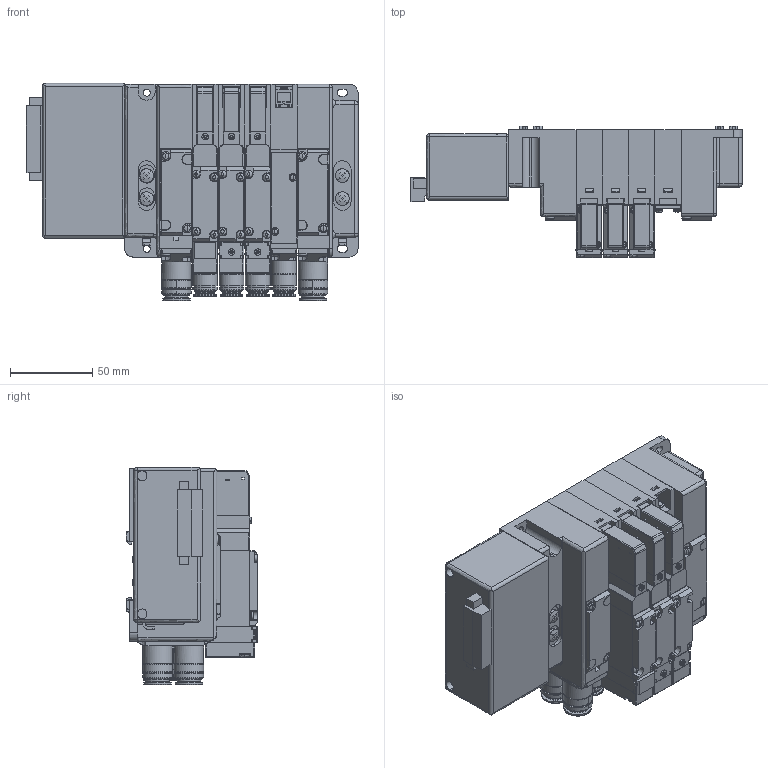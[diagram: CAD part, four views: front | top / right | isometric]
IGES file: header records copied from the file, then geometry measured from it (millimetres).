
Start section: ------------------------------------------------------------------------
Global section: file name: D:\ICADMX\tmp\trans3d_spg\CVICAD02.5220.F15M4XSJ-JR-B1-DN_16968.igs; native system: spGate; preprocessor: ver12.6.6; author: Unknown; organization: Unknown; date: 210712.184955; units: millimetre
Bounding box: 202 x 80.2 x 132.3 mm (x, y, z)
Volume: 1003557.7 mm3; surface area: 233339.7 mm2
Topology: 37 solids, 37 shells, 3587 faces, 9220 edges, 5908 vertices
Faces by surface type: bspline 3587
